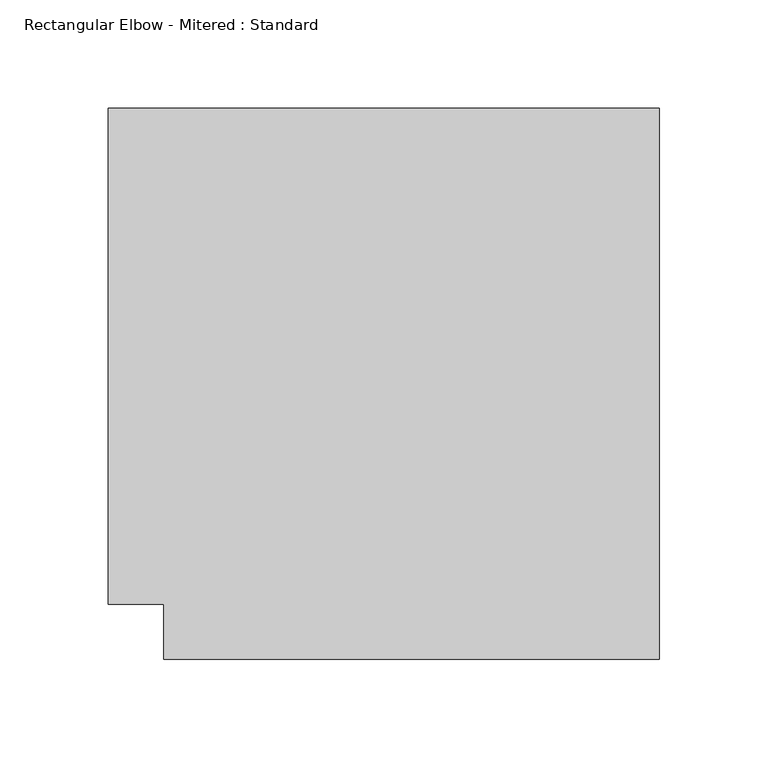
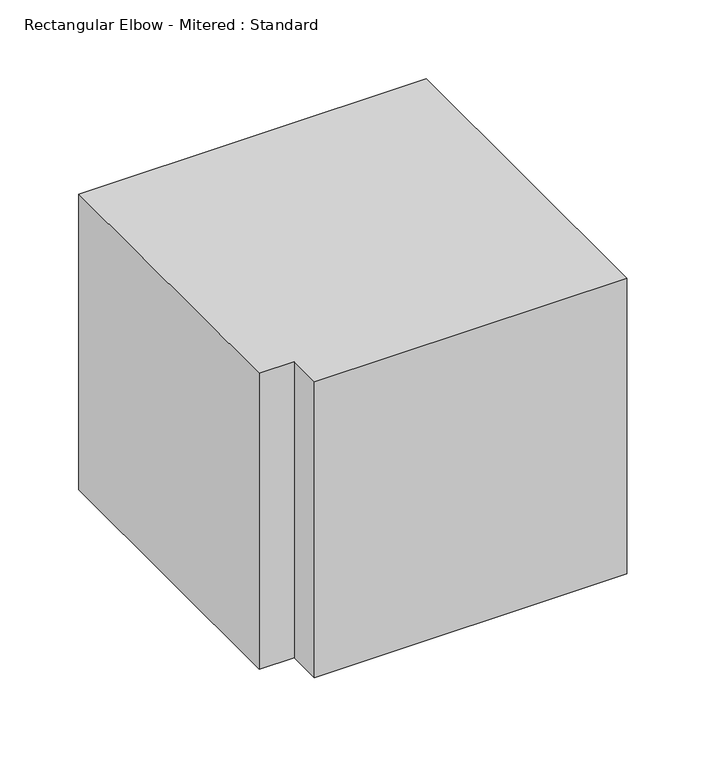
"""IFC4 building model written with IfcOpenShell, lengths in millimetres: duct fitting geometry, Rectangular Elbow - Mitered : Standard."""

from ifc_helpers import new_model, si_unit, frame, origin, place, context, project, spatial, polyline, outline, extrude, source, transform, mapped, element, save


def rectangular_elbow_mitered_standard_b28c36ac(model_context):
    return source(origin(), model_context, "Body", "SweptSolid", [
        extrude(outline(polyline([(-139.7, 114.3), (114.3, 114.3), (114.3, -139.7), (-114.3, -139.7), (-114.3, -114.3), (-139.7, -114.3), (-139.7, 114.3)])), frame((0.0, 0.0, -114.3), z_axis=(0.0, 0.0, 1.0), x_axis=(1.0, 0.0, 0.0)), (0.0, 0.0, 1.0), 228.6),
    ])


if __name__ == "__main__":
    model = new_model("IFC4")
    model_context = context("Model", 3, world=origin())
    ifc_project = project(units=[si_unit("LENGTHUNIT", "METRE", prefix="MILLI")], contexts=[model_context])
    site = spatial("IfcSite", under=ifc_project)
    building = spatial("IfcBuilding", under=site)
    placement = place(None, origin())
    rectangular_elbow_mitered_standard_shape = rectangular_elbow_mitered_standard_b28c36ac(model_context)
    element("IfcDuctFitting", 1, ObjectType="Rectangular Elbow - Mitered : Standard", at=placement, inside=building, context=model_context, shape_type="MappedRepresentation", body=[
        mapped(rectangular_elbow_mitered_standard_shape, transform((0.0, 0.0, 0.0), x_axis=(1.0, 0.0, 0.0), y_axis=(0.0, 1.0, 0.0), z_axis=(0.0, 0.0, 1.0))),
    ])
    save(model, "model.ifc")
